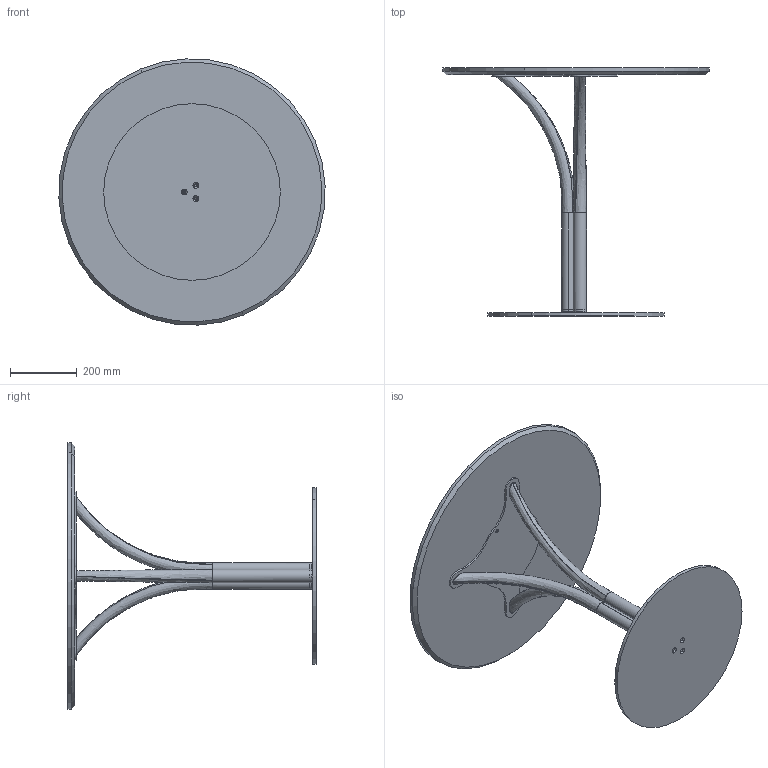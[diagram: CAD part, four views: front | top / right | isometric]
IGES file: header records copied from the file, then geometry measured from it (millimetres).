
Start section: SolidWorks IGES file using analytic representation for surfaces
Global section: file name: Y:\eforma\TECNICO\SOLIDWORKS\E-FORMA\5-TAVOLINI BISTRO\DODÒ\02 parts\DB20M.IGS; native system: SolidWorks 2022; preprocessor: SolidWorks 2022; author: eforma.tech; date: 240808.101451; units: millimetre
Bounding box: 799.18 x 745 x 799.18 mm (x, y, z)
Volume: 13021550.2 mm3; surface area: 2177140.7 mm2
Topology: 9 solids, 9 shells, 113 faces, 269 edges, 170 vertices
Faces by surface type: revolution 77, plane 24, bspline 12
